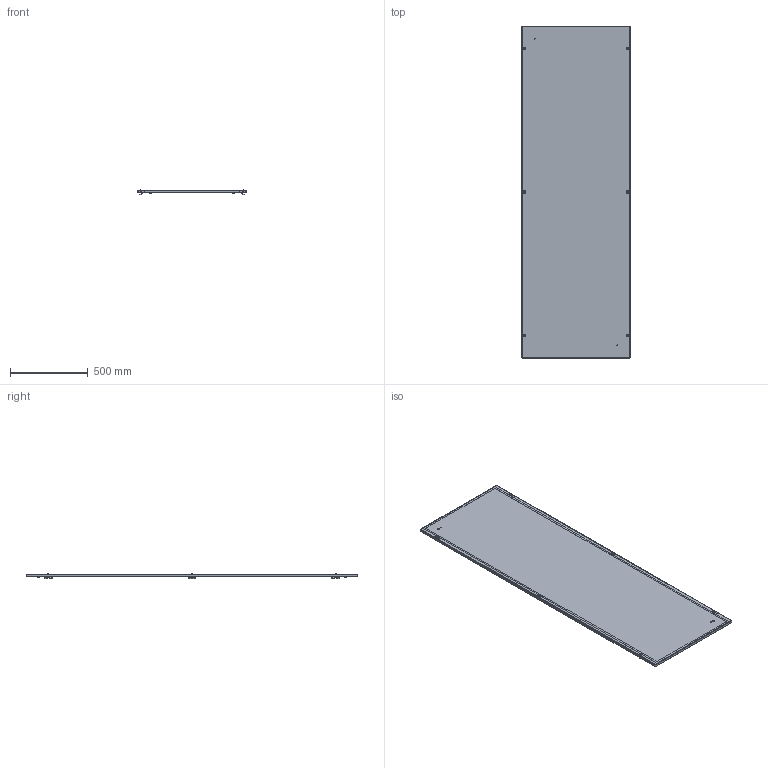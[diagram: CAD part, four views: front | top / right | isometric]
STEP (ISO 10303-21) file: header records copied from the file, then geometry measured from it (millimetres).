
FILE_DESCRIPTION (( 'STEP AP203' ), '1' );
FILE_NAME ('pcs227.STEP', '2013-01-23T15:24:58', ( 'User' ), ( 'Pentair Inc' ), 'SwSTEP 2.0', 'SolidWorks 2010', '' );
FILE_SCHEMA (( 'CONFIG_CONTROL_DESIGN' ));
Length unit declared in the file: inch
Products named in the file (12): pcs227; 87958390_WELDMENT COVER fip; 87958386_87958386; 60100041_60100041; 87931527_87931527; 87931368_SLEEVE; 87955259_FIP GASKET; 11158883_BBD; 60127219_60127219; 87790197_87790197; 60127199_60127199; 56906712_56906712
Assembly tree (17 placements, depth 4):
  pcs227
    11158883_BBD
      60127219_60127219  x6
        56906712_56906712
        60127199_60127199
        87790197_87790197
    87958390_WELDMENT COVER fip
      87958386_87958386
      87955259_FIP GASKET
      60100041_60100041  x2
        87931527_87931527
        87931368_SLEEVE
Bounding box: 696.34 x 2139.01 x 32.32 mm (x, y, z)
Volume: 2547893.5 mm3; surface area: 3369217.3 mm2
Topology: 24 solids, 24 shells, 1031 faces, 2426 edges, 1484 vertices
Faces by surface type: plane 521, cylinder 328, torus 96, cone 78, bspline 8
Entity records: 12176 total; most frequent: CARTESIAN_POINT 2323, DIRECTION 1836, ORIENTED_EDGE 1688, EDGE_CURVE 844, AXIS2_PLACEMENT_3D 691, VERTEX_POINT 516, VECTOR 454, LINE 454
